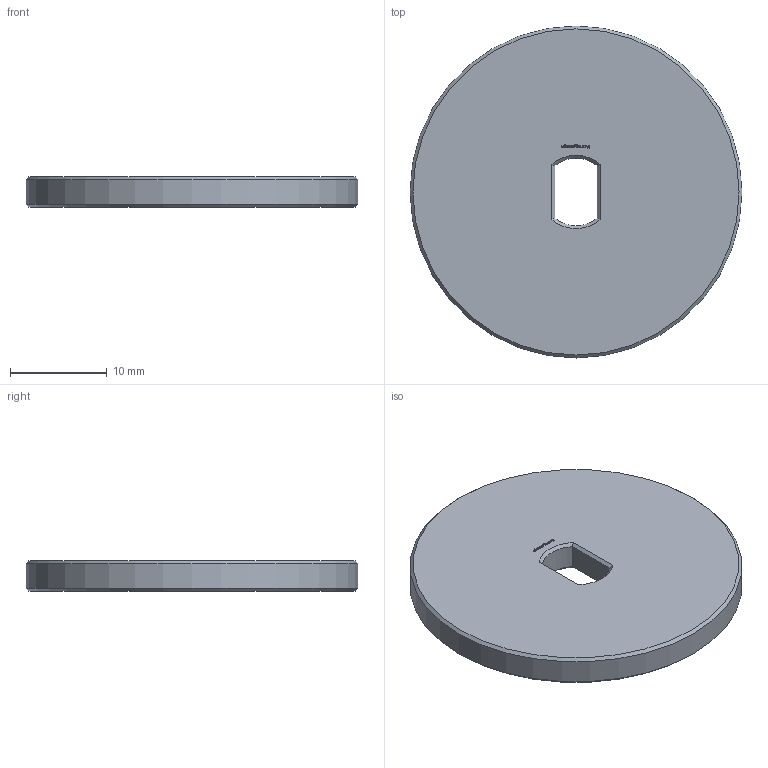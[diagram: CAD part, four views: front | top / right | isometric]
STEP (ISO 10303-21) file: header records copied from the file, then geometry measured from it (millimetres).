
FILE_DESCRIPTION(/* description */ (''),/* implementation_level */ '2;1');
FILE_NAME(/* name */ '/Users/paulokiefe/Desktop/STEMFIE/Fasteners/Washers/Fixed/Washer WSR FXD BU0.25x2.75 - SPN-WSR-0008 v1.step',/* time_stamp */ '2020-09-27T23:13:31+02:00',/* author */ (''),/* organization */ (''),/* preprocessor_version */ 'ST-DEVELOPER v18.1',/* originating_system */ 'Autodesk Translation Framework v9.3.0.1241',/* authorisation */ '');
FILE_SCHEMA (('AUTOMOTIVE_DESIGN { 1 0 10303 214 3 1 1 }'));
Length unit declared in the file: millimetre
Products named in the file (1): Washer WSR FXD BU0.25x2.75 - SPN-WSR-0008
Bounding box: 34.38 x 34.38 x 3.12 mm (x, y, z)
Volume: 2799.1 mm3; surface area: 2155.6 mm2
Topology: 1 solids, 1 shells, 261 faces, 731 edges, 484 vertices
Faces by surface type: plane 252, cone 6, cylinder 3
Full cylindrical faces by diameter (mm): 34.375 x1
Entity records: 8262 total; most frequent: CARTESIAN_POINT 1501, ORIENTED_EDGE 1462, DIRECTION 1259, EDGE_CURVE 731, LINE 711, VECTOR 711, VERTEX_POINT 484, EDGE_LOOP 275
